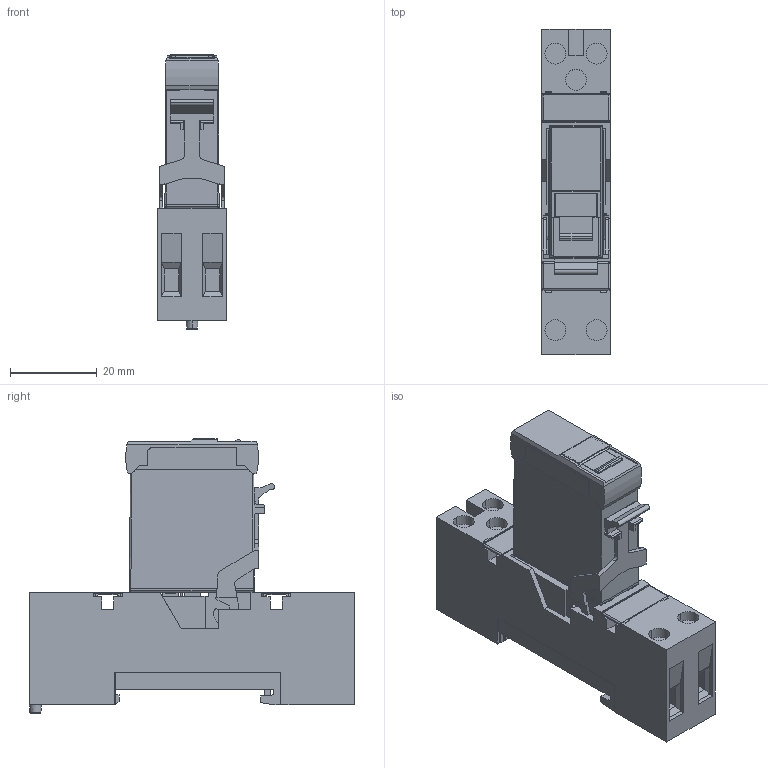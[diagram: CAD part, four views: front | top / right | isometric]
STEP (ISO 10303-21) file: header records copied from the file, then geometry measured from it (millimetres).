
FILE_DESCRIPTION (( 'STEP AP214' ), '1' );
FILE_NAME ('C10_plus_S10.STEP', '2024-04-04T08:16:29', ( '' ), ( '' ), 'SwSTEP 2.0', 'SolidWorks 2022', '' );
FILE_SCHEMA (( 'AUTOMOTIVE_DESIGN' ));
Length unit declared in the file: millimetre
Products named in the file (1): C10_plus_S10
Bounding box: 15.8 x 75 x 63.39 mm (x, y, z)
Volume: 36862 mm3; surface area: 17176.6 mm2
Topology: 1 solids, 17 shells, 927 faces, 2544 edges, 1632 vertices
Faces by surface type: plane 793, cylinder 116, sphere 12, cone 4, torus 2
Entity records: 39091 total; most frequent: CARTESIAN_POINT 5294, ORIENTED_EDGE 5064, DIRECTION 4574, EDGE_CURVE 2532, LINE 2262, VECTOR 2262, VERTEX_POINT 1632, AXIS2_PLACEMENT_3D 1156
